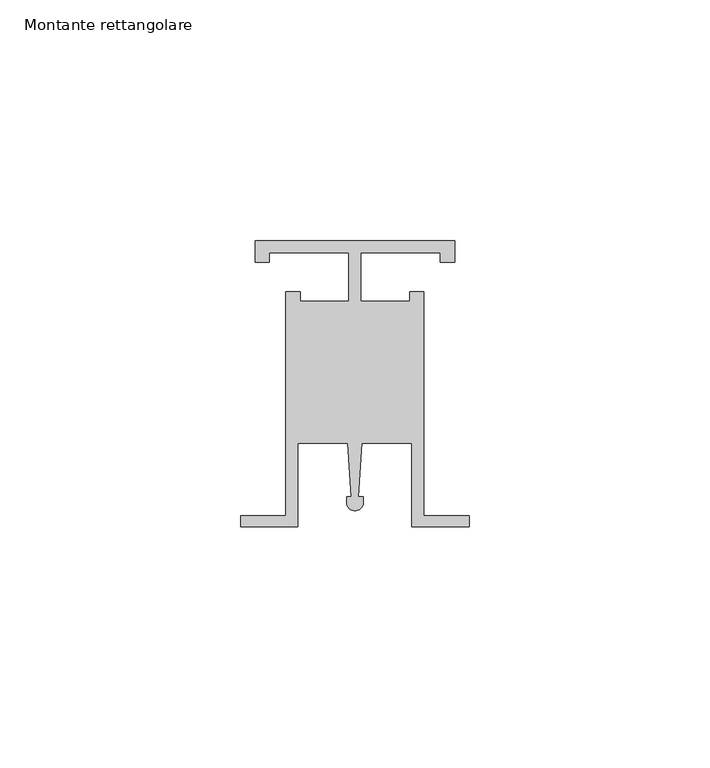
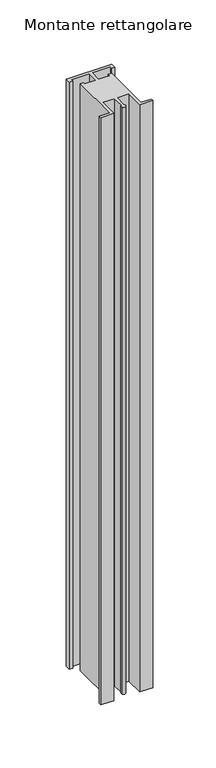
"""IFC4 building model written with IfcOpenShell, lengths in millimetres: member geometry, Montante rettangolare : Verde Profilo's Uprights."""

from ifc_helpers import new_model, si_unit, point, frame, frame_2d, origin, place, context, project, spatial, polyline, circle_curve, trimmed, segment, composite_curve, outline, extrude, source, transform, mapped, element, save


def montante_rettangolare_b888e0b9(model_context):
    return source(origin(), model_context, "Body", "SweptSolid", [
        extrude(outline(composite_curve([segment(polyline([(-20.7595941, 0.0), (20.7595941, 0.0), (20.7595941, -4.4643434), (17.7832659, -4.4643434), (17.7832659, -2.4801246), (1.24037, -2.4801246), (1.24037, -12.5992217), (11.3587923, -12.5992217), (11.3587923, -10.6150029), (14.3351204, -10.6150029), (14.3351204, -57.1992491), (23.7595941, -57.1992491), (23.7595941, -59.5229914), (11.8549958, -59.5229914), (11.8549958, -42.1200913), (1.4717512, -42.1200913), (0.7440374, -53.2310496), (1.7376604, -53.2310496), (1.7376604, -54.4070013)]), True, "CONTINUOUS"), segment(trimmed(circle_curve(frame_2d((0.0, -54.4070013)), 1.7376604), [point((1.7376604, -54.4070013))], [point((-1.7376604, -54.4070013))], False, "CARTESIAN"), True, "CONTINUOUS"), segment(polyline([(-1.7376604, -54.4070013), (-1.7376604, -53.2310496), (-0.7440374, -53.2310496), (-1.4717512, -42.1200913), (-11.8549958, -42.1200913), (-11.8549958, -59.5229914), (-23.7595941, -59.5229914), (-23.7595941, -57.1992491), (-14.3351204, -57.1992491), (-14.3351204, -10.6150029), (-11.3587923, -10.6150029), (-11.3587923, -12.5992217), (-1.24037, -12.5992217), (-1.24037, -2.4801246), (-17.7832659, -2.4801246), (-17.7832659, -4.4643434), (-20.7595941, -4.4643434), (-20.7595941, 0.0)]), True, "CONTINUOUS")], self_intersect=False)), frame((0.0, 0.0, -567.5198754), z_axis=(0.0, 0.0, 1.0), x_axis=(1.0, 0.0, 0.0)), (0.0, 0.0, 1.0), 567.5198754),
    ])


if __name__ == "__main__":
    model = new_model("IFC4")
    model_context = context("Model", 3, world=origin())
    ifc_project = project(units=[si_unit("LENGTHUNIT", "METRE", prefix="MILLI")], contexts=[model_context])
    site = spatial("IfcSite", under=ifc_project)
    building = spatial("IfcBuilding", under=site)
    placement = place(None, origin())
    montante_rettangolare_shape = montante_rettangolare_b888e0b9(model_context)
    element("IfcMember", 1, ObjectType="Montante rettangolare : Verde Profilo's Uprights", at=placement, inside=building, context=model_context, shape_type="MappedRepresentation", body=[
        mapped(montante_rettangolare_shape, transform((0.0, 0.0, 0.0), x_axis=(1.0, 0.0, 0.0), y_axis=(0.0, 1.0, 0.0), z_axis=(0.0, 0.0, 1.0))),
    ])
    save(model, "model.ifc")
